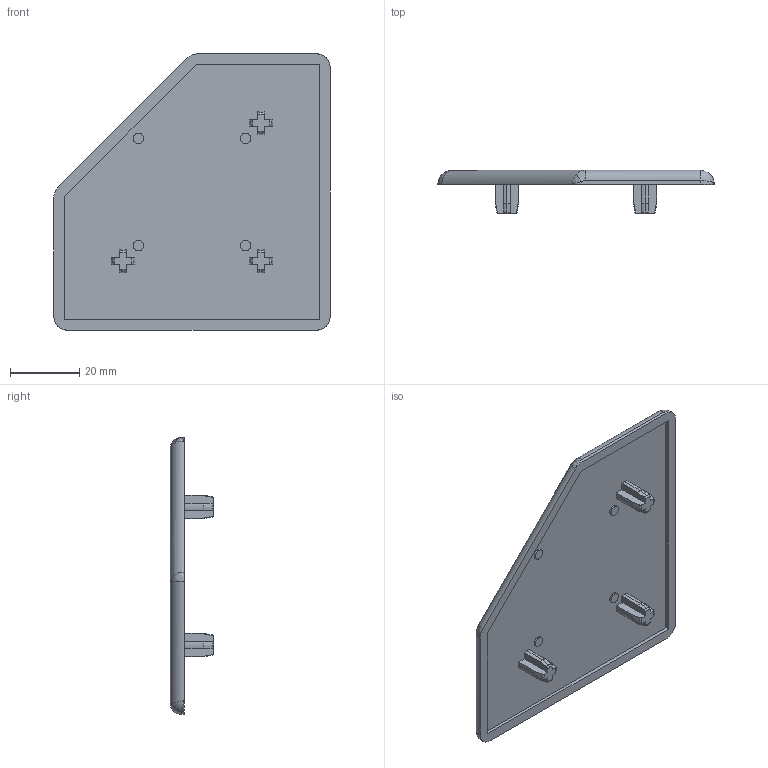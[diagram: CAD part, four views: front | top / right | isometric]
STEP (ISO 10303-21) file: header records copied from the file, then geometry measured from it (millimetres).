
FILE_DESCRIPTION (( 'STEP AP203' ), '1' );
FILE_NAME ('10030_ABD808045.STEP', '2018-02-22T15:08:39', ( '' ), ( '' ), 'SwSTEP 2.0', 'SolidWorks 2017', '' );
FILE_SCHEMA (( 'CONFIG_CONTROL_DESIGN' ));
Length unit declared in the file: millimetre
Products named in the file (1): 10030_ABD808045
Bounding box: 80 x 12.5 x 80 mm (x, y, z)
Volume: 17448.2 mm3; surface area: 12889.2 mm2
Topology: 1 solids, 1 shells, 115 faces, 307 edges, 198 vertices
Faces by surface type: plane 45, cylinder 34, bspline 21, cone 15
Entity records: 4637 total; most frequent: CARTESIAN_POINT 1887, ORIENTED_EDGE 606, DIRECTION 490, EDGE_CURVE 303, VERTEX_POINT 198, AXIS2_PLACEMENT_3D 172, VECTOR 146, LINE 146
